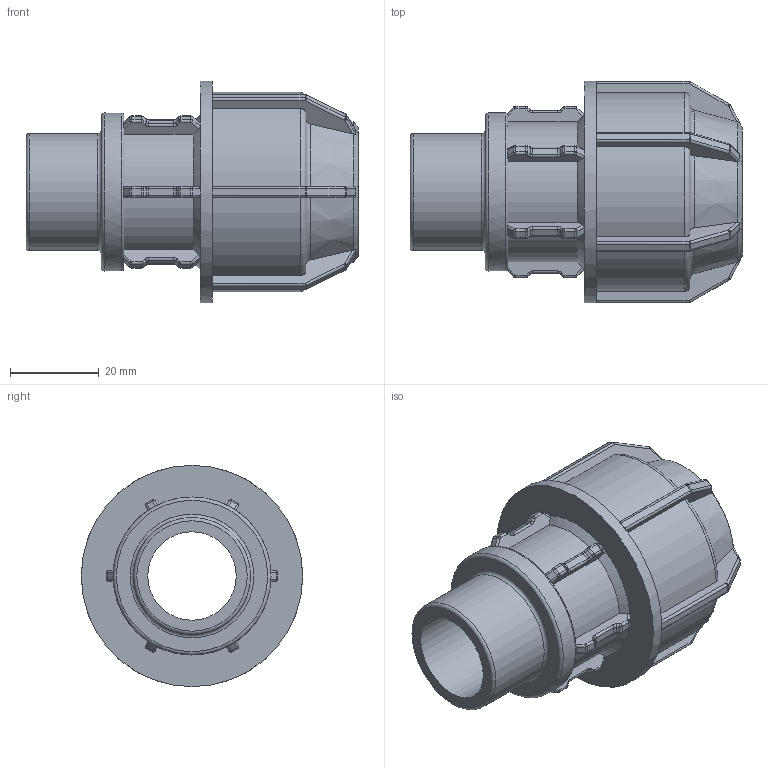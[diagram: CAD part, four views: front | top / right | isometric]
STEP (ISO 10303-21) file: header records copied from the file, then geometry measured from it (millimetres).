
FILE_DESCRIPTION(/* description */ ('PLASSON L.14 MALE ADAPTOR (SILVER) 25-3/4'''''),/* implementation_level */ '2;1');
FILE_NAME(/* name */ 'C:\Dropbox\KIMPROJECTS-Inventor\99-16-3568-Processing\Silver+MF ISRAEL\140200\140200025007.ipt.stp',/* time_stamp */ '2018-04-09T13:02:41+03:00',/* author */ ('KIM'),/* organization */ (''),/* preprocessor_version */ 'ST-DEVELOPER v15.6',/* originating_system */ 'Autodesk Inventor 2015',/* authorisation */ '');
FILE_SCHEMA (('AUTOMOTIVE_DESIGN { 1 0 10303 214 3 1 1 }'));
Length unit declared in the file: millimetre
Products named in the file (1): 140200025007
Bounding box: 75 x 50 x 50 mm (x, y, z)
Volume: 47049.4 mm3; surface area: 18790.9 mm2
Topology: 1 solids, 1 shells, 472 faces, 1170 edges, 693 vertices
Faces by surface type: cylinder 186, plane 159, bspline 72, torus 42, cone 13
Full cylindrical faces by diameter (mm): 20 x1, 25 x2, 26.441 x1, 35.695 x1, 50 x1
Entity records: 14502 total; most frequent: CARTESIAN_POINT 3786, DIRECTION 2310, ORIENTED_EDGE 2252, EDGE_CURVE 1126, AXIS2_PLACEMENT_3D 930, VERTEX_POINT 676, CIRCLE 508, EDGE_LOOP 488
